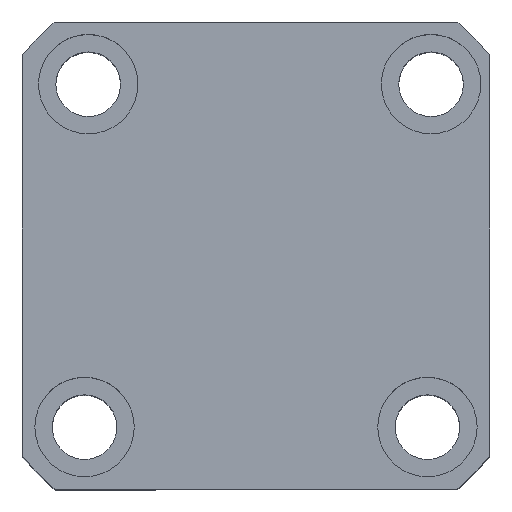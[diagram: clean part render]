
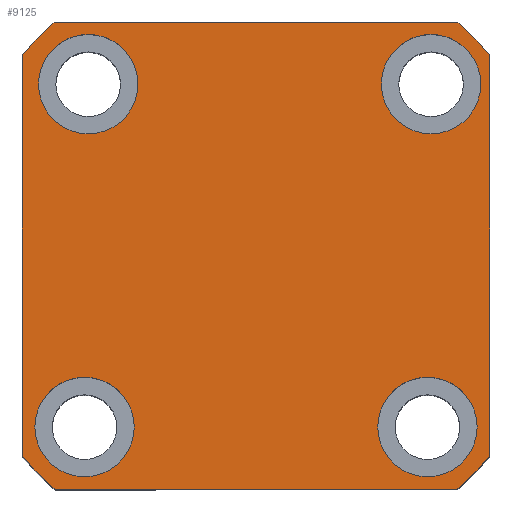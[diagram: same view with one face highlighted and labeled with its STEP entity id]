
A CAD part, top view. The second image highlights one B-rep face of the part: STEP entity #9125.
In plain terms, the highlighted planar face has unit normal (0, 0, 1) as drawn and (0, 0, -1) by its records, which use the part's own axes.
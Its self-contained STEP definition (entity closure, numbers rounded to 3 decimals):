
#224 = CIRCLE ( 'NONE', #9556, 10. ) ;
#271 = CARTESIAN_POINT ( 'NONE',  ( 34.5, 34.5, 0. ) ) ;
#393 = DIRECTION ( 'NONE',  ( -1., 0., 0. ) ) ;
#407 = DIRECTION ( 'NONE',  ( 1., 0., 0. ) ) ;
#435 = EDGE_CURVE ( 'NONE', #11595, #13962, #14771, .T. ) ;
#461 = CARTESIAN_POINT ( 'NONE',  ( 0., 0., 0. ) ) ;
#692 = EDGE_LOOP ( 'NONE', ( #16285, #12857, #13071, #17564, #6598, #13503, #16710, #17143 ) ) ;
#694 = VERTEX_POINT ( 'NONE', #14640 ) ;
#834 = CARTESIAN_POINT ( 'NONE',  ( 0., 0., 0. ) ) ;
#887 = VERTEX_POINT ( 'NONE', #8712 ) ;
#999 = ORIENTED_EDGE ( 'NONE', *, *, #8582, .F. ) ;
#1285 = VECTOR ( 'NONE', #407, 1000. ) ;
#1355 = CARTESIAN_POINT ( 'NONE',  ( -47., 47., 0. ) ) ;
#1433 = ORIENTED_EDGE ( 'NONE', *, *, #2860, .F. ) ;
#1830 = DIRECTION ( 'NONE',  ( 1., 0., 0. ) ) ;
#1939 = CARTESIAN_POINT ( 'NONE',  ( 35.23, -34.5, 0. ) ) ;
#1947 = AXIS2_PLACEMENT_3D ( 'NONE', #8132, #15090, #15027 ) ;
#2137 = CIRCLE ( 'NONE', #4777, 62. ) ;
#2143 = FACE_BOUND ( 'NONE', #4568, .T. ) ;
#2169 = CIRCLE ( 'NONE', #1947, 62. ) ;
#2206 = DIRECTION ( 'NONE',  ( 1., 0., 0. ) ) ;
#2276 = CARTESIAN_POINT ( 'NONE',  ( 44.5, 34.5, 0. ) ) ;
#2476 = AXIS2_PLACEMENT_3D ( 'NONE', #4609, #13545, #8507 ) ;
#2628 = DIRECTION ( 'NONE',  ( 0., 0., -1. ) ) ;
#2860 = EDGE_CURVE ( 'NONE', #7544, #6158, #9900, .T. ) ;
#3073 = CARTESIAN_POINT ( 'NONE',  ( 0., 0., 0. ) ) ;
#3090 = PLANE ( 'NONE',  #6546 ) ;
#3125 = ORIENTED_EDGE ( 'NONE', *, *, #11861, .F. ) ;
#3306 = CARTESIAN_POINT ( 'NONE',  ( 0., 0., 0. ) ) ;
#3317 = DIRECTION ( 'NONE',  ( -1., 0., 0. ) ) ;
#3499 = EDGE_CURVE ( 'NONE', #6361, #7928, #2169, .T. ) ;
#3562 = ORIENTED_EDGE ( 'NONE', *, *, #4702, .F. ) ;
#3579 = CARTESIAN_POINT ( 'NONE',  ( -33.77, -34.5, 0. ) ) ;
#3777 = CARTESIAN_POINT ( 'NONE',  ( -47., 47., 0. ) ) ;
#3817 = CIRCLE ( 'NONE', #11331, 62. ) ;
#3918 = CARTESIAN_POINT ( 'NONE',  ( -34.5, 34.5, 0. ) ) ;
#3929 = AXIS2_PLACEMENT_3D ( 'NONE', #3918, #13590, #5310 ) ;
#4026 = DIRECTION ( 'NONE',  ( 0., 1., 0. ) ) ;
#4267 = LINE ( 'NONE', #3777, #11173 ) ;
#4286 = EDGE_CURVE ( 'NONE', #6058, #887, #15751, .T. ) ;
#4456 = DIRECTION ( 'NONE',  ( 1., 0., 0. ) ) ;
#4476 = CIRCLE ( 'NONE', #9821, 10. ) ;
#4510 = LINE ( 'NONE', #8660, #1285 ) ;
#4568 = EDGE_LOOP ( 'NONE', ( #3125, #3562 ) ) ;
#4609 = CARTESIAN_POINT ( 'NONE',  ( -33.77, -34.5, 0. ) ) ;
#4701 = DIRECTION ( 'NONE',  ( 1., 0., 0. ) ) ;
#4702 = EDGE_CURVE ( 'NONE', #10914, #9808, #224, .T. ) ;
#4761 = CARTESIAN_POINT ( 'NONE',  ( -34.5, 34.5, 0. ) ) ;
#4777 = AXIS2_PLACEMENT_3D ( 'NONE', #834, #10452, #2206 ) ;
#4943 = DIRECTION ( 'NONE',  ( 0., 0., -1. ) ) ;
#4979 = DIRECTION ( 'NONE',  ( -1., 0., 0. ) ) ;
#4987 = EDGE_LOOP ( 'NONE', ( #999, #1433 ) ) ;
#5057 = DIRECTION ( 'NONE',  ( -1., 0., 0. ) ) ;
#5091 = VERTEX_POINT ( 'NONE', #10439 ) ;
#5310 = DIRECTION ( 'NONE',  ( -1., 0., 0. ) ) ;
#5551 = AXIS2_PLACEMENT_3D ( 'NONE', #3306, #12959, #4701 ) ;
#5642 = EDGE_CURVE ( 'NONE', #7928, #9056, #4510, .T. ) ;
#5798 = FACE_BOUND ( 'NONE', #4987, .T. ) ;
#6058 = VERTEX_POINT ( 'NONE', #16956 ) ;
#6145 = CARTESIAN_POINT ( 'NONE',  ( 47., 40.435, 0. ) ) ;
#6158 = VERTEX_POINT ( 'NONE', #8787 ) ;
#6235 = VECTOR ( 'NONE', #10979, 1000. ) ;
#6247 = FACE_OUTER_BOUND ( 'NONE', #692, .T. ) ;
#6288 = CARTESIAN_POINT ( 'NONE',  ( -43.77, -34.5, 0. ) ) ;
#6361 = VERTEX_POINT ( 'NONE', #7773 ) ;
#6546 = AXIS2_PLACEMENT_3D ( 'NONE', #461, #10082, #1830 ) ;
#6598 = ORIENTED_EDGE ( 'NONE', *, *, #3499, .F. ) ;
#6820 = CARTESIAN_POINT ( 'NONE',  ( 47., 47., 0. ) ) ;
#6825 = EDGE_CURVE ( 'NONE', #10393, #6361, #16773, .T. ) ;
#6833 = CARTESIAN_POINT ( 'NONE',  ( 25.23, -34.5, 0. ) ) ;
#7168 = EDGE_LOOP ( 'NONE', ( #11558, #12001 ) ) ;
#7544 = VERTEX_POINT ( 'NONE', #2276 ) ;
#7627 = CARTESIAN_POINT ( 'NONE',  ( 45.23, -34.5, 0. ) ) ;
#7773 = CARTESIAN_POINT ( 'NONE',  ( -47., -40.435, 0. ) ) ;
#7928 = VERTEX_POINT ( 'NONE', #9604 ) ;
#8132 = CARTESIAN_POINT ( 'NONE',  ( 0., 0., 0. ) ) ;
#8454 = CARTESIAN_POINT ( 'NONE',  ( -23.77, -34.5, 0. ) ) ;
#8507 = DIRECTION ( 'NONE',  ( -1., 0., 0. ) ) ;
#8582 = EDGE_CURVE ( 'NONE', #6158, #7544, #15305, .T. ) ;
#8650 = DIRECTION ( 'NONE',  ( 0., 0., -1. ) ) ;
#8660 = CARTESIAN_POINT ( 'NONE',  ( -47., -47., 0. ) ) ;
#8712 = CARTESIAN_POINT ( 'NONE',  ( -24.5, 34.5, 0. ) ) ;
#8787 = CARTESIAN_POINT ( 'NONE',  ( 24.5, 34.5, 0. ) ) ;
#9056 = VERTEX_POINT ( 'NONE', #14018 ) ;
#9125 = ADVANCED_FACE ( 'NONE', ( #2143, #16788, #9467, #5798, #6247 ), #3090, .F. ) ;
#9251 = CIRCLE ( 'NONE', #5551, 62. ) ;
#9467 = FACE_BOUND ( 'NONE', #7168, .T. ) ;
#9556 = AXIS2_PLACEMENT_3D ( 'NONE', #16877, #8650, #393 ) ;
#9604 = CARTESIAN_POINT ( 'NONE',  ( -40.435, -47., 0. ) ) ;
#9808 = VERTEX_POINT ( 'NONE', #6833 ) ;
#9821 = AXIS2_PLACEMENT_3D ( 'NONE', #3579, #13245, #4979 ) ;
#9900 = CIRCLE ( 'NONE', #15564, 10. ) ;
#9909 = AXIS2_PLACEMENT_3D ( 'NONE', #4761, #4943, #5057 ) ;
#10082 = DIRECTION ( 'NONE',  ( 0., 0., 1. ) ) ;
#10298 = CIRCLE ( 'NONE', #10418, 10. ) ;
#10393 = VERTEX_POINT ( 'NONE', #11693 ) ;
#10418 = AXIS2_PLACEMENT_3D ( 'NONE', #1939, #11572, #3317 ) ;
#10439 = CARTESIAN_POINT ( 'NONE',  ( -40.435, 47., 0. ) ) ;
#10452 = DIRECTION ( 'NONE',  ( 0., 0., 1. ) ) ;
#10480 = VERTEX_POINT ( 'NONE', #6145 ) ;
#10587 = AXIS2_PLACEMENT_3D ( 'NONE', #10884, #2628, #12284 ) ;
#10884 = CARTESIAN_POINT ( 'NONE',  ( 34.5, 34.5, 0. ) ) ;
#10914 = VERTEX_POINT ( 'NONE', #7627 ) ;
#10979 = DIRECTION ( 'NONE',  ( 0., -1., 0. ) ) ;
#11173 = VECTOR ( 'NONE', #12053, 1000. ) ;
#11246 = EDGE_CURVE ( 'NONE', #694, #10480, #16560, .T. ) ;
#11331 = AXIS2_PLACEMENT_3D ( 'NONE', #3073, #12715, #4456 ) ;
#11558 = ORIENTED_EDGE ( 'NONE', *, *, #4286, .F. ) ;
#11572 = DIRECTION ( 'NONE',  ( 0., 0., -1. ) ) ;
#11595 = VERTEX_POINT ( 'NONE', #8454 ) ;
#11693 = CARTESIAN_POINT ( 'NONE',  ( -47., 40.435, 0. ) ) ;
#11714 = EDGE_LOOP ( 'NONE', ( #17759, #15230 ) ) ;
#11861 = EDGE_CURVE ( 'NONE', #9808, #10914, #10298, .T. ) ;
#12001 = ORIENTED_EDGE ( 'NONE', *, *, #16655, .F. ) ;
#12053 = DIRECTION ( 'NONE',  ( -1., 0., 0. ) ) ;
#12284 = DIRECTION ( 'NONE',  ( -1., 0., 0. ) ) ;
#12715 = DIRECTION ( 'NONE',  ( 0., 0., 1. ) ) ;
#12857 = ORIENTED_EDGE ( 'NONE', *, *, #11246, .F. ) ;
#12959 = DIRECTION ( 'NONE',  ( 0., 0., 1. ) ) ;
#13071 = ORIENTED_EDGE ( 'NONE', *, *, #17109, .F. ) ;
#13245 = DIRECTION ( 'NONE',  ( 0., 0., -1. ) ) ;
#13346 = VECTOR ( 'NONE', #4026, 1000. ) ;
#13503 = ORIENTED_EDGE ( 'NONE', *, *, #6825, .F. ) ;
#13514 = VERTEX_POINT ( 'NONE', #15651 ) ;
#13545 = DIRECTION ( 'NONE',  ( 0., 0., -1. ) ) ;
#13590 = DIRECTION ( 'NONE',  ( 0., 0., -1. ) ) ;
#13789 = EDGE_CURVE ( 'NONE', #10480, #13514, #2137, .T. ) ;
#13962 = VERTEX_POINT ( 'NONE', #6288 ) ;
#14018 = CARTESIAN_POINT ( 'NONE',  ( 40.435, -47., 0. ) ) ;
#14640 = CARTESIAN_POINT ( 'NONE',  ( 47., -40.435, 0. ) ) ;
#14737 = EDGE_CURVE ( 'NONE', #5091, #10393, #9251, .T. ) ;
#14771 = CIRCLE ( 'NONE', #2476, 10. ) ;
#15027 = DIRECTION ( 'NONE',  ( 1., 0., 0. ) ) ;
#15090 = DIRECTION ( 'NONE',  ( 0., 0., 1. ) ) ;
#15170 = EDGE_CURVE ( 'NONE', #13514, #5091, #4267, .T. ) ;
#15230 = ORIENTED_EDGE ( 'NONE', *, *, #435, .F. ) ;
#15305 = CIRCLE ( 'NONE', #10587, 10. ) ;
#15564 = AXIS2_PLACEMENT_3D ( 'NONE', #271, #16412, #16470 ) ;
#15651 = CARTESIAN_POINT ( 'NONE',  ( 40.435, 47., 0. ) ) ;
#15701 = CIRCLE ( 'NONE', #3929, 10. ) ;
#15751 = CIRCLE ( 'NONE', #9909, 10. ) ;
#16134 = EDGE_CURVE ( 'NONE', #13962, #11595, #4476, .T. ) ;
#16285 = ORIENTED_EDGE ( 'NONE', *, *, #13789, .F. ) ;
#16412 = DIRECTION ( 'NONE',  ( 0., 0., -1. ) ) ;
#16470 = DIRECTION ( 'NONE',  ( -1., 0., 0. ) ) ;
#16560 = LINE ( 'NONE', #6820, #13346 ) ;
#16655 = EDGE_CURVE ( 'NONE', #887, #6058, #15701, .T. ) ;
#16710 = ORIENTED_EDGE ( 'NONE', *, *, #14737, .F. ) ;
#16773 = LINE ( 'NONE', #1355, #6235 ) ;
#16788 = FACE_BOUND ( 'NONE', #11714, .T. ) ;
#16877 = CARTESIAN_POINT ( 'NONE',  ( 35.23, -34.5, 0. ) ) ;
#16956 = CARTESIAN_POINT ( 'NONE',  ( -44.5, 34.5, 0. ) ) ;
#17109 = EDGE_CURVE ( 'NONE', #9056, #694, #3817, .T. ) ;
#17143 = ORIENTED_EDGE ( 'NONE', *, *, #15170, .F. ) ;
#17564 = ORIENTED_EDGE ( 'NONE', *, *, #5642, .F. ) ;
#17759 = ORIENTED_EDGE ( 'NONE', *, *, #16134, .F. ) ;
